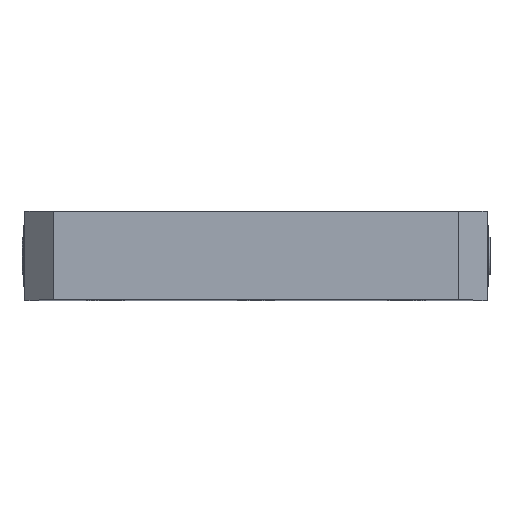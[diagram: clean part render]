
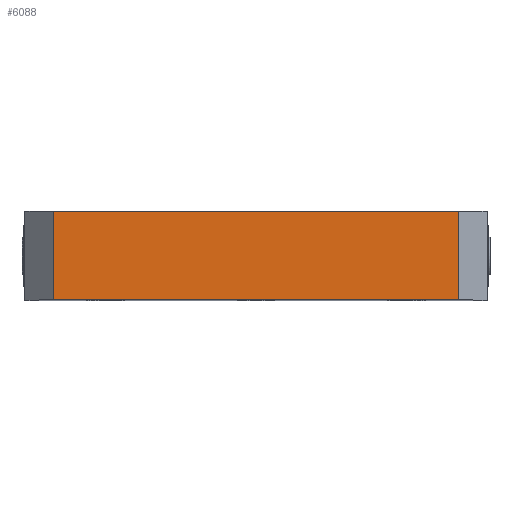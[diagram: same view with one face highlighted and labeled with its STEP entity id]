
A CAD part, top view. The second image highlights one B-rep face of the part: STEP entity #6088.
In plain terms, the highlighted planar face has unit normal (0, 0, 1).
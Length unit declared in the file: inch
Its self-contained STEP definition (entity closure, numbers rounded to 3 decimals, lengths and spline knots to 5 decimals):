
#200 = CARTESIAN_POINT ( 'NONE',  ( -3.07087, 1.1811, 3.46457 ) ) ;
#1010 = LINE ( 'NONE', #200, #5398 ) ;
#1054 = PLANE ( 'NONE',  #1718 ) ;
#1569 = VERTEX_POINT ( 'NONE', #3807 ) ;
#1718 = AXIS2_PLACEMENT_3D ( 'NONE', #1770, #7479, #6812 ) ;
#1770 = CARTESIAN_POINT ( 'NONE',  ( -3.07087, 1.1811, 3.46457 ) ) ;
#1841 = ORIENTED_EDGE ( 'NONE', *, *, #5124, .T. ) ;
#2038 = VERTEX_POINT ( 'NONE', #7527 ) ;
#2384 = EDGE_CURVE ( 'NONE', #2038, #1569, #4647, .T. ) ;
#2549 = CARTESIAN_POINT ( 'NONE',  ( 2.69587, 1.1811, 3.46457 ) ) ;
#3155 = CARTESIAN_POINT ( 'NONE',  ( -3.07087, 0., 3.46457 ) ) ;
#3203 = EDGE_CURVE ( 'NONE', #8259, #6449, #1010, .T. ) ;
#3292 = EDGE_CURVE ( 'NONE', #8259, #2038, #6387, .T. ) ;
#3583 = VECTOR ( 'NONE', #7148, 39.37008 ) ;
#3781 = EDGE_LOOP ( 'NONE', ( #7423, #9330, #8033, #1841 ) ) ;
#3807 = CARTESIAN_POINT ( 'NONE',  ( 2.69587, 0., 3.46457 ) ) ;
#4168 = VECTOR ( 'NONE', #5488, 39.37008 ) ;
#4606 = DIRECTION ( 'NONE',  ( 1., 0., 0. ) ) ;
#4647 = LINE ( 'NONE', #3155, #9355 ) ;
#5124 = EDGE_CURVE ( 'NONE', #1569, #6449, #6217, .T. ) ;
#5398 = VECTOR ( 'NONE', #4606, 39.37008 ) ;
#5488 = DIRECTION ( 'NONE',  ( 0., 1., 0. ) ) ;
#5903 = DIRECTION ( 'NONE',  ( 1., 0., 0. ) ) ;
#6088 = ADVANCED_FACE ( 'NONE', ( #8338 ), #1054, .F. ) ;
#6217 = LINE ( 'NONE', #2549, #4168 ) ;
#6387 = LINE ( 'NONE', #8431, #3583 ) ;
#6449 = VERTEX_POINT ( 'NONE', #8671 ) ;
#6812 = DIRECTION ( 'NONE',  ( -1., 0., 0. ) ) ;
#7148 = DIRECTION ( 'NONE',  ( 0., -1., 0. ) ) ;
#7423 = ORIENTED_EDGE ( 'NONE', *, *, #3203, .F. ) ;
#7479 = DIRECTION ( 'NONE',  ( 0., 0., -1. ) ) ;
#7527 = CARTESIAN_POINT ( 'NONE',  ( -2.69587, 0., 3.46457 ) ) ;
#8033 = ORIENTED_EDGE ( 'NONE', *, *, #2384, .T. ) ;
#8205 = CARTESIAN_POINT ( 'NONE',  ( -2.69587, 1.1811, 3.46457 ) ) ;
#8259 = VERTEX_POINT ( 'NONE', #8205 ) ;
#8338 = FACE_OUTER_BOUND ( 'NONE', #3781, .T. ) ;
#8431 = CARTESIAN_POINT ( 'NONE',  ( -2.69587, 1.1811, 3.46457 ) ) ;
#8671 = CARTESIAN_POINT ( 'NONE',  ( 2.69587, 1.1811, 3.46457 ) ) ;
#9330 = ORIENTED_EDGE ( 'NONE', *, *, #3292, .T. ) ;
#9355 = VECTOR ( 'NONE', #5903, 39.37008 ) ;
